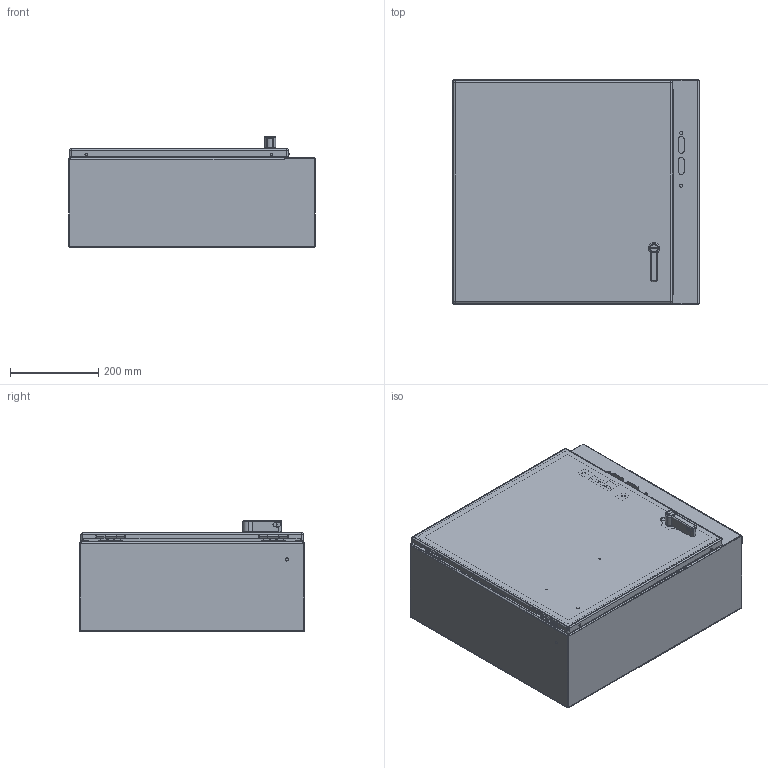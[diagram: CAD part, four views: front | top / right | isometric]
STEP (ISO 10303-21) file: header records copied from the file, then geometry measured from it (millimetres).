
FILE_DESCRIPTION (( 'STEP AP203' ), '1' );
FILE_NAME ('cdsc20228.STEP', '2020-02-13T22:40:32', ( '' ), ( '' ), 'SwSTEP 2.0', 'SolidWorks 2016', '' );
FILE_SCHEMA (( 'CONFIG_CONTROL_DESIGN' ));
Length unit declared in the file: inch
Products named in the file (38): 87938387_assy; 64212001; 87541995; 89173484; 87756316; 99411834; 99411839_99411839; 64210001; 64103001; cdsc20228; 87938367; 89175157_89175157; 64208001; 79410_LOCKED; 89076399; 22101011; 87543027; 87931362_87931362; 64207001; 87932266; 99401225; 89131630; 87540678; 87415909_Locked; 89076193; 89123196; 64206002; 87784879_CWHPTO; 64205001; 64157001_Locked; 87938410_fip; 23271001_After Weld; 89082423; 64144001; 87938429; 89173485; 89123197; 99411612
Assembly tree (53 placements, depth 5):
  cdsc20228
    89082423
      87756316
      23271001_After Weld  x4
      99401225
    87543027  x2
    89076399  x2
      89076193
      89131630
    87938387_assy
      87938410_fip
        87938367
        99401225  x3
        87931362_87931362  x2
      87415909_Locked
        64157001_Locked
          87540678
          64210001
          64208001
          64205001  x2
          87541995
          87932266
        64103001  x2
        64206002
        64207001
        99411834  x2
        64212001
        64144001
        99411612  x2
      87938429
      22101011  x2
      99411839_99411839  x2
      89173484
      89173485
      89175157_89175157  x2
    87784879_CWHPTO
      79410_LOCKED
    89123197
      89123196
Bounding box: 557.53 x 508 x 251.76 mm (x, y, z)
Volume: 1901137.4 mm3; surface area: 2351824.5 mm2
Topology: 49 solids, 49 shells, 3417 faces, 8886 edges, 5600 vertices
Faces by surface type: plane 1595, cylinder 967, bspline 527, torus 173, cone 99, sphere 56
Entity records: 93375 total; most frequent: CARTESIAN_POINT 33215, ORIENTED_EDGE 12224, DIRECTION 10599, EDGE_CURVE 6112, VERTEX_POINT 3877, AXIS2_PLACEMENT_3D 3550, VECTOR 3499, LINE 3499
